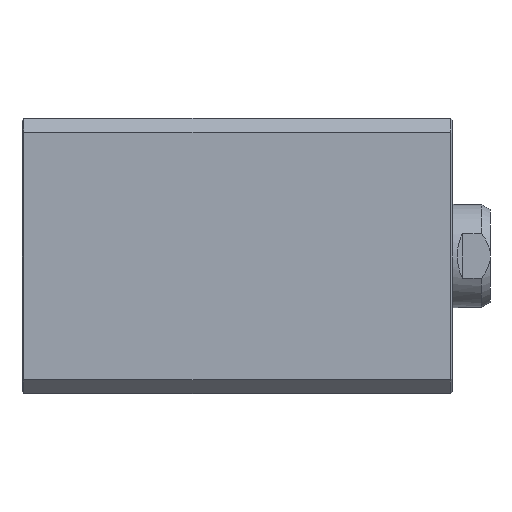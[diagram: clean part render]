
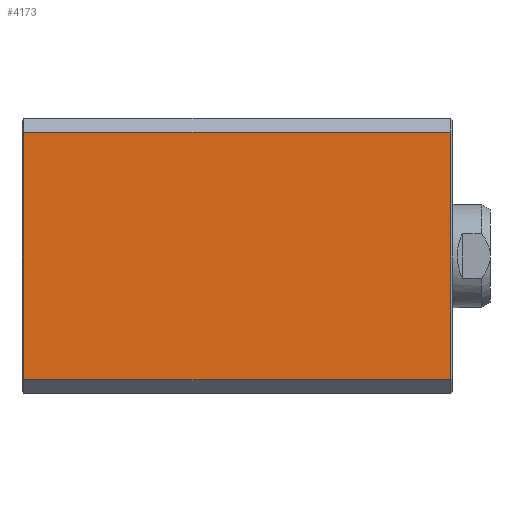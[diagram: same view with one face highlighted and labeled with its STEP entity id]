
A CAD part, left-side view. The second image highlights one B-rep face of the part: STEP entity #4173.
In plain terms, the highlighted planar face has unit normal (-1, 0, 0).
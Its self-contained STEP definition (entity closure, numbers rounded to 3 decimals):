
#85=LINE('',#5740,#379);
#178=LINE('',#5928,#472);
#180=LINE('',#5932,#474);
#181=LINE('',#5933,#475);
#379=VECTOR('',#4702,1000.);
#472=VECTOR('',#4855,1000.);
#474=VECTOR('',#4859,1000.);
#475=VECTOR('',#4860,1000.);
#987=ORIENTED_EDGE('',*,*,#1658,.F.);
#988=ORIENTED_EDGE('',*,*,#1660,.T.);
#989=ORIENTED_EDGE('',*,*,#1565,.T.);
#990=ORIENTED_EDGE('',*,*,#1661,.T.);
#1565=EDGE_CURVE('',#1932,#1933,#85,.T.);
#1658=EDGE_CURVE('',#1996,#1997,#178,.T.);
#1660=EDGE_CURVE('',#1996,#1932,#180,.T.);
#1661=EDGE_CURVE('',#1933,#1997,#181,.T.);
#1932=VERTEX_POINT('',#5741);
#1933=VERTEX_POINT('',#5742);
#1996=VERTEX_POINT('',#5927);
#1997=VERTEX_POINT('',#5929);
#2269=EDGE_LOOP('',(#987,#988,#989,#990));
#2507=FACE_BOUND('',#2269,.T.);
#2690=PLANE('',#4398);
#4173=ADVANCED_FACE('',(#2507),#2690,.T.);
#4398=AXIS2_PLACEMENT_3D('',#5931,#4857,#4858);
#4702=DIRECTION('',(0.,-1.,0.));
#4855=DIRECTION('',(0.,-1.,0.));
#4857=DIRECTION('',(-1.,0.,0.));
#4858=DIRECTION('',(0.,0.,1.));
#4859=DIRECTION('',(0.,0.,-1.));
#4860=DIRECTION('',(0.,0.,1.));
#5740=CARTESIAN_POINT('',(-40.,85.,-36.));
#5741=CARTESIAN_POINT('',(-40.,124.5,-36.));
#5742=CARTESIAN_POINT('',(-40.,0.5,-36.));
#5927=CARTESIAN_POINT('',(-40.,124.5,36.));
#5928=CARTESIAN_POINT('',(-40.,85.,36.));
#5929=CARTESIAN_POINT('',(-40.,0.5,36.));
#5931=CARTESIAN_POINT('',(-40.,85.,36.));
#5932=CARTESIAN_POINT('',(-40.,124.5,36.));
#5933=CARTESIAN_POINT('',(-40.,0.5,36.));
